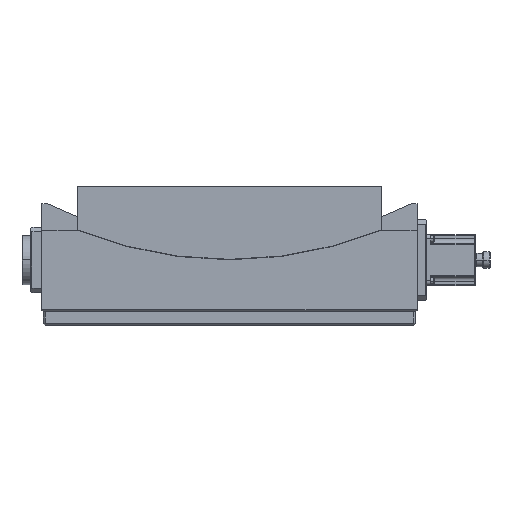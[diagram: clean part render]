
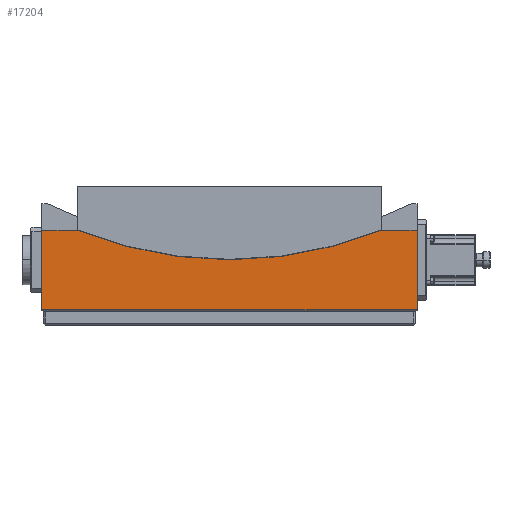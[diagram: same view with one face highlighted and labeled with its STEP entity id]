
A CAD part, top view. The second image highlights one B-rep face of the part: STEP entity #17204.
In plain terms, the highlighted planar face has unit normal (0, 0, 1).
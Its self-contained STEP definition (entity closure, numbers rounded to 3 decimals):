
#141 = CARTESIAN_POINT ( 'NONE',  ( -219.424, 22.049, 125. ) ) ;
#274 = CARTESIAN_POINT ( 'NONE',  ( -9.424, 440.862, 125. ) ) ;
#978 = VECTOR ( 'NONE', #11463, 1000. ) ;
#1116 = EDGE_CURVE ( 'NONE', #24578, #20151, #11234, .T. ) ;
#2061 = CARTESIAN_POINT ( 'NONE',  ( 200.576, -67.151, 125. ) ) ;
#2094 = ORIENTED_EDGE ( 'NONE', *, *, #22776, .T. ) ;
#2105 = VECTOR ( 'NONE', #10907, 1000. ) ;
#2258 = ORIENTED_EDGE ( 'NONE', *, *, #1116, .T. ) ;
#2402 = DIRECTION ( 'NONE',  ( 0., 0., -1. ) ) ;
#2671 = CARTESIAN_POINT ( 'NONE',  ( 200.576, -67.151, 125. ) ) ;
#2892 = ORIENTED_EDGE ( 'NONE', *, *, #17513, .T. ) ;
#4534 = LINE ( 'NONE', #24461, #27769 ) ;
#5025 = PLANE ( 'NONE',  #6889 ) ;
#5833 = CARTESIAN_POINT ( 'NONE',  ( 160.576, 22.049, 125. ) ) ;
#6889 = AXIS2_PLACEMENT_3D ( 'NONE', #13487, #18034, #24752 ) ;
#8533 = CARTESIAN_POINT ( 'NONE',  ( 160.576, 22.049, 125. ) ) ;
#8545 = DIRECTION ( 'NONE',  ( 0., 1., 0. ) ) ;
#8627 = VERTEX_POINT ( 'NONE', #19234 ) ;
#9968 = EDGE_CURVE ( 'NONE', #10747, #24578, #4534, .T. ) ;
#10747 = VERTEX_POINT ( 'NONE', #15659 ) ;
#10810 = EDGE_CURVE ( 'NONE', #8627, #10747, #26002, .T. ) ;
#10907 = DIRECTION ( 'NONE',  ( 1., 0., 0. ) ) ;
#11234 = LINE ( 'NONE', #2061, #2105 ) ;
#11282 = EDGE_CURVE ( 'NONE', #24573, #11830, #29118, .T. ) ;
#11463 = DIRECTION ( 'NONE',  ( -1., 0., 0. ) ) ;
#11492 = FACE_OUTER_BOUND ( 'NONE', #23613, .T. ) ;
#11830 = VERTEX_POINT ( 'NONE', #8533 ) ;
#13210 = ORIENTED_EDGE ( 'NONE', *, *, #10810, .T. ) ;
#13487 = CARTESIAN_POINT ( 'NONE',  ( -9.424, 440.862, 125. ) ) ;
#15505 = CIRCLE ( 'NONE', #17014, 452. ) ;
#15659 = CARTESIAN_POINT ( 'NONE',  ( -219.424, 22.049, 125. ) ) ;
#17014 = AXIS2_PLACEMENT_3D ( 'NONE', #274, #2402, #27412 ) ;
#17204 = ADVANCED_FACE ( 'NONE', ( #11492 ), #5025, .T. ) ;
#17226 = ORIENTED_EDGE ( 'NONE', *, *, #11282, .T. ) ;
#17513 = EDGE_CURVE ( 'NONE', #20151, #24573, #26666, .T. ) ;
#17607 = CARTESIAN_POINT ( 'NONE',  ( 200.576, 22.049, 125. ) ) ;
#18034 = DIRECTION ( 'NONE',  ( 0., 0., 1. ) ) ;
#19234 = CARTESIAN_POINT ( 'NONE',  ( -179.424, 22.049, 125. ) ) ;
#19597 = CARTESIAN_POINT ( 'NONE',  ( -219.424, -67.151, 125. ) ) ;
#19700 = CARTESIAN_POINT ( 'NONE',  ( 200.576, 22.049, 125. ) ) ;
#20151 = VERTEX_POINT ( 'NONE', #2671 ) ;
#20691 = VECTOR ( 'NONE', #8545, 1000. ) ;
#21619 = DIRECTION ( 'NONE',  ( -1., 0., 0. ) ) ;
#22090 = VECTOR ( 'NONE', #21619, 1000. ) ;
#22776 = EDGE_CURVE ( 'NONE', #11830, #8627, #15505, .T. ) ;
#23613 = EDGE_LOOP ( 'NONE', ( #24103, #2258, #2892, #17226, #2094, #13210 ) ) ;
#24103 = ORIENTED_EDGE ( 'NONE', *, *, #9968, .T. ) ;
#24461 = CARTESIAN_POINT ( 'NONE',  ( -219.424, -69.151, 125. ) ) ;
#24573 = VERTEX_POINT ( 'NONE', #19700 ) ;
#24578 = VERTEX_POINT ( 'NONE', #19597 ) ;
#24752 = DIRECTION ( 'NONE',  ( 1., 0., 0. ) ) ;
#26002 = LINE ( 'NONE', #141, #978 ) ;
#26666 = LINE ( 'NONE', #17607, #20691 ) ;
#26690 = DIRECTION ( 'NONE',  ( 0., -1., 0. ) ) ;
#27412 = DIRECTION ( 'NONE',  ( 1., 0., 0. ) ) ;
#27769 = VECTOR ( 'NONE', #26690, 1000. ) ;
#29118 = LINE ( 'NONE', #5833, #22090 ) ;
